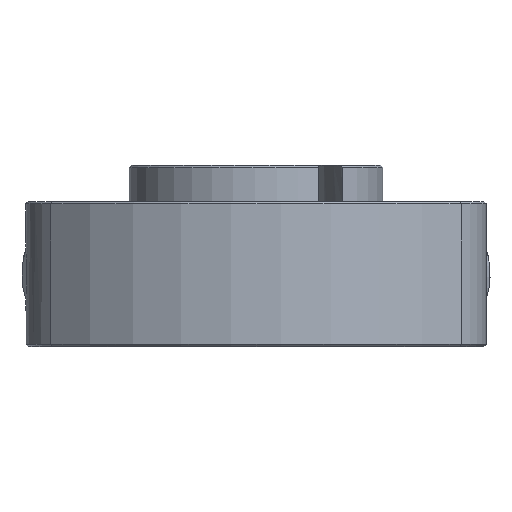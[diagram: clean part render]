
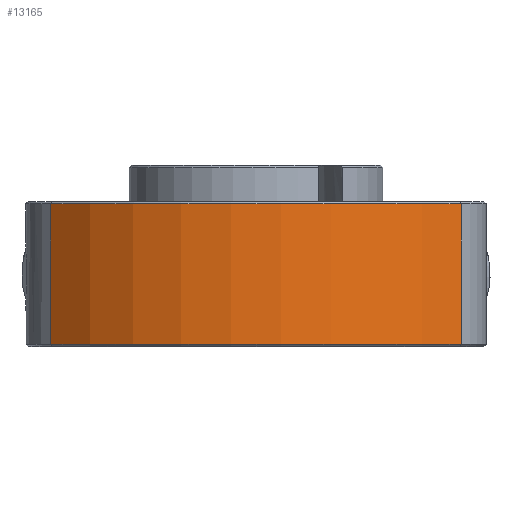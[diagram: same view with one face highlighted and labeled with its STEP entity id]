
A CAD part, front view. The second image highlights one B-rep face of the part: STEP entity #13165.
In plain terms, the highlighted cylindrical face has radius 16 mm (diameter 32 mm), a partial arc.
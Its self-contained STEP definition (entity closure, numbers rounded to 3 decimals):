
#6396 = LINE ( 'NONE', #60405, #43697 ) ;
#6645 = ORIENTED_EDGE ( 'NONE', *, *, #28164, .T. ) ;
#7750 = FACE_OUTER_BOUND ( 'NONE', #55785, .T. ) ;
#7969 = DIRECTION ( 'NONE',  ( 0., 0., -1. ) ) ;
#8556 = CYLINDRICAL_SURFACE ( 'NONE', #48174, 16. ) ;
#9837 = AXIS2_PLACEMENT_3D ( 'NONE', #37745, #7969, #23115 ) ;
#9988 = VERTEX_POINT ( 'NONE', #52390 ) ;
#10284 = ORIENTED_EDGE ( 'NONE', *, *, #36026, .T. ) ;
#11003 = CARTESIAN_POINT ( 'NONE',  ( 0., 0., -3.875 ) ) ;
#13014 = ORIENTED_EDGE ( 'NONE', *, *, #24887, .T. ) ;
#13165 = ADVANCED_FACE ( 'NONE', ( #7750 ), #8556, .T. ) ;
#18668 = ORIENTED_EDGE ( 'NONE', *, *, #50706, .F. ) ;
#20307 = VERTEX_POINT ( 'NONE', #22330 ) ;
#22080 = LINE ( 'NONE', #50767, #35001 ) ;
#22330 = CARTESIAN_POINT ( 'NONE',  ( -11.314, -11.314, -3.875 ) ) ;
#23115 = DIRECTION ( 'NONE',  ( 1., 0., 0. ) ) ;
#24887 = EDGE_CURVE ( 'NONE', #9988, #45947, #27848, .T. ) ;
#27848 = CIRCLE ( 'NONE', #9837, 16. ) ;
#28164 = EDGE_CURVE ( 'NONE', #45947, #20307, #6396, .T. ) ;
#35001 = VECTOR ( 'NONE', #36684, 1000. ) ;
#36026 = EDGE_CURVE ( 'NONE', #20307, #56030, #40420, .T. ) ;
#36684 = DIRECTION ( 'NONE',  ( 0., 0., -1. ) ) ;
#37745 = CARTESIAN_POINT ( 'NONE',  ( 0., 0., 3.875 ) ) ;
#40420 = CIRCLE ( 'NONE', #42736, 16. ) ;
#42736 = AXIS2_PLACEMENT_3D ( 'NONE', #11003, #49936, #45249 ) ;
#43432 = DIRECTION ( 'NONE',  ( 0., 0., -1. ) ) ;
#43697 = VECTOR ( 'NONE', #51257, 1000. ) ;
#45249 = DIRECTION ( 'NONE',  ( 1., 0., 0. ) ) ;
#45310 = CARTESIAN_POINT ( 'NONE',  ( -11.314, -11.314, 3.875 ) ) ;
#45947 = VERTEX_POINT ( 'NONE', #45310 ) ;
#48174 = AXIS2_PLACEMENT_3D ( 'NONE', #53017, #43432, #48528 ) ;
#48528 = DIRECTION ( 'NONE',  ( -1., 0., 0. ) ) ;
#49936 = DIRECTION ( 'NONE',  ( 0., 0., 1. ) ) ;
#50706 = EDGE_CURVE ( 'NONE', #9988, #56030, #22080, .T. ) ;
#50767 = CARTESIAN_POINT ( 'NONE',  ( 11.314, -11.314, -4. ) ) ;
#51257 = DIRECTION ( 'NONE',  ( 0., 0., -1. ) ) ;
#52390 = CARTESIAN_POINT ( 'NONE',  ( 11.314, -11.314, 3.875 ) ) ;
#52752 = CARTESIAN_POINT ( 'NONE',  ( 11.314, -11.314, -3.875 ) ) ;
#53017 = CARTESIAN_POINT ( 'NONE',  ( 0., 0., 4. ) ) ;
#55785 = EDGE_LOOP ( 'NONE', ( #6645, #10284, #18668, #13014 ) ) ;
#56030 = VERTEX_POINT ( 'NONE', #52752 ) ;
#60405 = CARTESIAN_POINT ( 'NONE',  ( -11.314, -11.314, 4. ) ) ;
